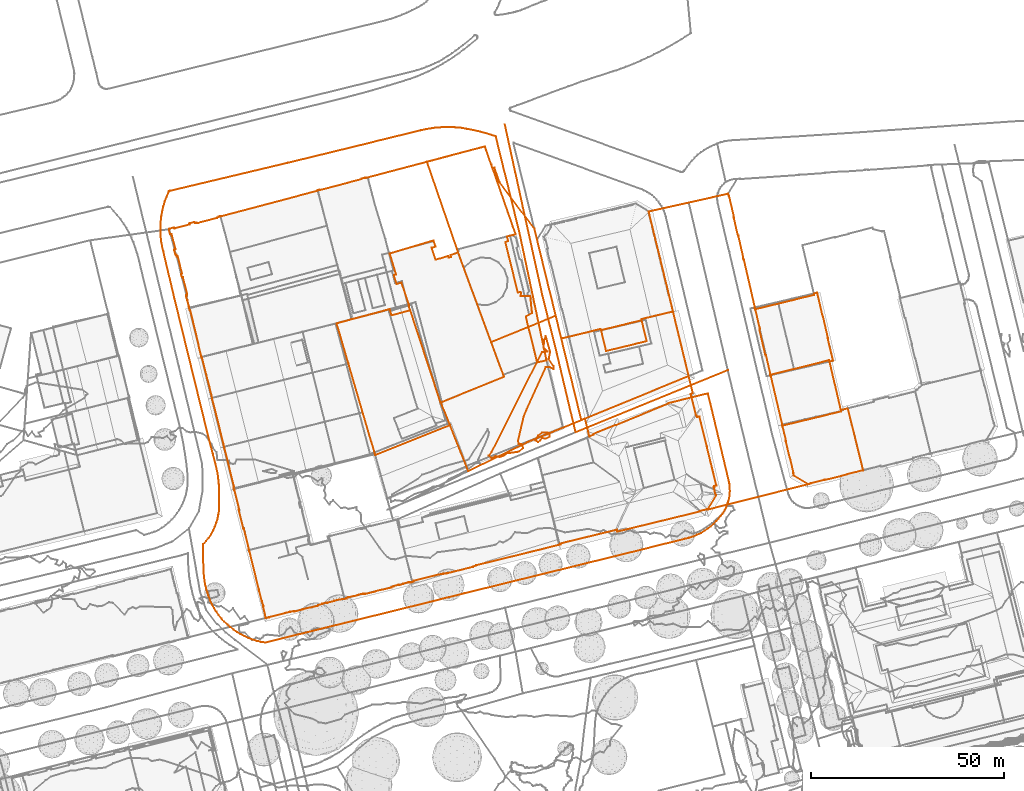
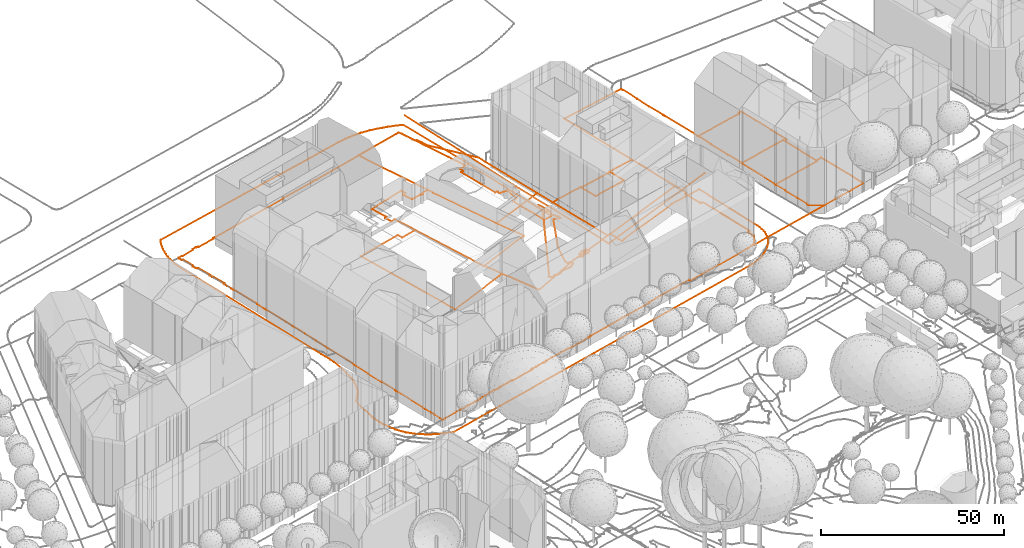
# Not in any storey, part 203 of 477: 13 geographic elements, 3 civil elements.
"""IFC4 model written with IfcOpenShell, lengths in metres."""

from ifc_helpers import new_model, entity, si_unit, frame, origin_with_axes, place, context, subcontext, project, spatial, element, save


model = new_model("IFC4")

# Units and contexts
model_context = context("Model", 3, precision=1e-05, world=origin_with_axes())
body_context = subcontext(model_context, "Body", "Model", "MODEL_VIEW")
ifc_project = project(units=[si_unit("AREAUNIT", "SQUARE_METRE"), si_unit("LENGTHUNIT", "METRE")], contexts=[model_context])

# Sites
site_1_placement = place(None, origin_with_axes())
site_1 = spatial("IfcSite", under=ifc_project, at=site_1_placement, Name="Topoexport Site")
site_2_placement = place(site_1_placement, origin_with_axes())
site_2 = spatial("IfcSite", under=site_1, at=site_2_placement, Name="TPX_ROADS")

# Civil elements
civil_element_1_placement = place(site_2_placement, frame((238.4017320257, 402.2767309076, 541.49), z_axis=(0.0, 0.0, 1.0), x_axis=(1.0, 0.0, 0.0)))
element("IfcCivilElement", 1, at=civil_element_1_placement, inside=site_2, Name="Road 5", ObjectType="ROAD", context=body_context, shape_type="GeometricCurveSet", body=[
    entity("IfcGeometricCurveSet", [entity("IfcIndexedPolyCurve", entity("IfcCartesianPointList3D", [[0.0, 0.0, 0.0], [39.4039999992, 16.1069995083, -0.087]]))]),
])
civil_element_2_placement = place(site_2_placement, frame((220.0437320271, 482.1497284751, 542.232), z_axis=(0.0, 0.0, 1.0), x_axis=(1.0, 0.0, 0.0)))
element("IfcCivilElement", 2, at=civil_element_2_placement, inside=site_2, Name="Road 24", ObjectType="ROAD", context=body_context, shape_type="GeometricCurveSet", body=[
    entity("IfcGeometricCurveSet", [entity("IfcIndexedPolyCurve", entity("IfcCartesianPointList3D", [[0.0, 0.0, 0.0], [4.6949999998, -21.4849993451, -0.089], [9.728999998, -44.2079986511, -0.437], [13.467999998, -59.3079981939, -0.565], [18.3579999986, -79.8729975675, -0.742]]))]),
])

# Site
site_3_placement = place(site_1_placement, origin_with_axes())
site_3 = spatial("IfcSite", under=site_1, at=site_3_placement, Name="TPX_ROADS_OUTLINES")

# Civil element
civil_element_3_placement = place(site_3_placement, frame((130.9287320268, 455.5297160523, 541.5830187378), z_axis=(0.0, 0.0, 1.0), x_axis=(1.0, 0.0, 0.0)))
element("IfcCivilElement", 3, at=civil_element_3_placement, inside=site_3, Name="Roads Outline 12", ObjectType="ROAD", context=body_context, shape_type="GeometricCurveSet", body=[
    entity("IfcGeometricCurveSet", [entity("IfcIndexedPolyCurve", entity("IfcCartesianPointList3D", [[0.7709999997, -6.4779999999, -0.0016682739], [0.466, -5.2049999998, 0.0031159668], [0.236, -3.916, 0.0061794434], [0.0809999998, -2.6159999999, 0.0021209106], [0.0019999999, -1.3089999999, 5.23682e-05], [0.0, 0.0, 0.0], [0.0729999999, 1.3080000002, 0.001911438], [0.2220000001, 2.608, 0.0058128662], [0.4469999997, 3.898, 0.0034140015], [0.747, 5.1730000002, -0.0012918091], [1.1200000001, 6.4280000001, -0.0071427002], [1.5660000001, 7.659, 0.0086921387], [2.0819999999, 8.8620000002, 0.0377612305], [2.1519999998, 9.007, 0.0417047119], [2.264, 9.1230000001, 0.0471509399], [2.406, 9.1980000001, 0.0469776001], [2.5649999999, 9.226, 0.0467835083], [33.0219999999, 16.497, 0.2701014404], [67.5189999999, 24.9130000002, 0.2454834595], [68.7149999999, 25.175, 0.2479653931], [69.9199999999, 25.3870000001, 0.250506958], [71.1340000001, 25.5480000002, 0.2530463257], [72.3530000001, 25.6580000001, 0.2555823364], [73.6889999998, 25.719, 0.2584094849], [75.0269999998, 25.719, 0.2611860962], [76.3629999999, 25.6570000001, 0.2640195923], [77.6949999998, 25.5330000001, 0.2667837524], [79.4049999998, 25.2540000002, 0.2703418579], [81.1039999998, 24.915, 0.263743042], [82.79, 24.517, 0.2559685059], [84.1489999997, 24.1500000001, 0.2551099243], [85.497, 23.7440000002, 0.2544456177], [86.8330000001, 23.3, 0.2387869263], [92.9729999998, -1.723, 0.2454085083], [99.9709999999, -34.655, 0.4476865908], [97.5469999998, -35.2019999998, 0.4608101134], [95.2609999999, -25.9889999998, 0.3011609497], [94.5929999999, -23.2989999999, 0.2832200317], [96.1859999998, -22.3969999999, 0.2983380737], [96.1459999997, -21.997, 0.298460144], [95.7450000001, -18.034, 0.2996838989], [93.2549999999, -18.0009999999, 0.2472197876], [93.3319999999, -17.2339999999, 0.2492782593], [93.2629999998, -16.953, 0.2474336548], [92.5249999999, -17.1339999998, 0.2427288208], [89.2999999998, -3.9939999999, 0.224338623], [90.0379999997, -3.8129999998, 0.22852771], [89.7379999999, -2.5889999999, 0.2268248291], [91.284, -2.1869999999, 0.2356003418], [91.9750000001, -2.0229999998, 0.239522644], [91.2179999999, 0.1160000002, 0.235225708], [89.906, 3.845, 0.2277784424], [85.9839999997, 15.0460000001, 0.2542078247], [85.665, 15.9550000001, 0.2543635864], [84.3369999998, 19.78, 0.2550120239], [84.0099999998, 20.723, 0.2551862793], [83.0260000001, 20.463, 0.25578125], [71.1809999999, 17.3250000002, 0.2531438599], [69.338, 16.8370000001, 0.2492636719], [68.986, 16.7440000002, 0.248527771], [53.398, 12.6140000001, 0.2158744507], [53.0449999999, 12.52, 0.2151419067], [53.0090000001, 12.6460000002, 0.2150671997], [52.068, 12.4040000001, 0.2131033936], [52.1030000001, 12.2710000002, 0.2131781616], [41.2059999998, 9.3830000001, 0.3085638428], [41.1719999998, 9.513, 0.3084040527], [40.6949999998, 9.3860000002, 0.3061622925], [40.7289999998, 9.257, 0.3063220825], [15.5919999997, 2.5960000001, 0.1881855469], [15.5649999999, 2.7410000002, 0.1880586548], [15.0379999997, 2.598, 0.1855819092], [15.0779999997, 2.452, 0.1857698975], [14.693, 2.3500000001, 0.1839605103], [14.7239999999, 2.2270000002, 0.1841062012], [9.4309999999, 0.834, 0.2971021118], [9.3999999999, 0.953, 0.2971967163], [9.0179999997, 0.8520000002, 0.2972486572], [8.9899999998, 0.9980000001, 0.2971990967], [8.7849999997, 0.9510000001, 0.2968362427], [8.7399999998, 1.1400000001, 0.2967565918], [7.5859999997, 0.8330000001, 0.2673182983], [7.6229999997, 0.686, 0.2689126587], [7.4739999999, 0.6470000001, 0.2624921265], [7.5060000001, 0.527, 0.2638710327], [3.6850000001, -0.4859999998, 0.0539053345], [3.6529999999, -0.3659999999, 0.0533213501], [3.5460000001, -0.395, 0.0513686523], [3.5079999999, -0.25, 0.0506751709], [2.3670000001, -0.5519999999, 0.0470252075], [2.3799999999, -0.5999999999, 0.0470093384], [2.327, -0.6459999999, 0.0470740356], [2.2849999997, -0.7019999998, 0.0471253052], [2.2560000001, -0.7659999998, 0.0471607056], [2.2420000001, -0.8339999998, 0.0467749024], [2.1839999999, -0.8489999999, 0.0435074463], [2.4929999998, -2.0089999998, 0.0468713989], [2.5989999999, -1.9809999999, 0.0467420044], [2.6319999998, -2.1069999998, 0.0467017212], [2.9029999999, -2.034, 0.0463709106], [3.9219999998, -5.851, 0.0582304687], [3.6809999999, -5.9149999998, 0.0538323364], [3.7139999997, -6.041, 0.0544345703], [3.5979999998, -6.0719999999, 0.0523176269], [3.8759999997, -7.2279999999, 0.0573909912], [3.9709999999, -7.2019999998, 0.0591246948], [4.0189999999, -7.395, 0.0600006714], [4.1329999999, -7.378, 0.0620811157], [4.2220000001, -7.7359999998, 0.0637053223], [4.4939999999, -7.669, 0.0713458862], [5.6289999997, -12.2409999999, 0.1390869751], [5.3569999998, -12.3089999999, 0.1063652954], [5.5669999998, -13.1429999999, 0.1316283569], [5.8359999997, -13.0759999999, 0.1639891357], [6.9699999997, -17.6369999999, 0.2418812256], [6.6979999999, -17.7049999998, 0.231239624], [6.7889999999, -18.071, 0.2347998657], [6.6710000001, -18.0999999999, 0.2301832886], [6.9169999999, -19.0799999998, 0.2398076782], [6.9729999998, -19.0659999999, 0.2419985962], [7.378, -20.7019999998, 0.2583554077], [7.321, -20.716, 0.255899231], [7.4369999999, -21.186, 0.2608977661], [7.5609999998, -21.686, 0.2662410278], [7.7450000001, -21.6399999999, 0.2741697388], [9.8909999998, -30.527, 0.211005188], [9.8199999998, -30.5449999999, 0.2126548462], [10.0549999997, -31.493, 0.1709725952], [10.4410000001, -33.051, 0.1026965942], [10.5269999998, -33.3959999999, 0.0883696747], [10.6129999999, -33.7439999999, 0.0743959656], [10.6719999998, -33.983, 0.0655645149], [10.702, -34.1039999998, 0.0614769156], [10.798, -34.078, 0.0601971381], [12.7059999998, -41.5689999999, -0.1394587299], [13.2719999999, -43.936, -0.1920396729], [13.378, -44.3839999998, -0.201873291], [13.4389999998, -44.6409999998, -0.2075132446], [14.463, -48.7189999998, -0.2965995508], [15.5079999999, -52.95, -0.4069377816], [16.3309999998, -56.3569999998, -0.5380378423], [16.4939999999, -57.017, -0.5578206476], [16.5469999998, -57.1919999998, -0.5603717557], [16.6089999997, -57.4439999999, -0.5643173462], [19.0460000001, -67.2719999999, -0.742845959], [18.9359999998, -67.2999999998, -0.7447531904], [18.8859999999, -67.3119999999, -0.7455786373], [18.997, -67.7579999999, -0.7619240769], [19.1009999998, -68.176, -0.7759363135], [19.1499999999, -68.1639999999, -0.7752164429], [20.4279999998, -73.308, -0.9431282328], [20.273, -73.3459999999, -0.9465376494], [21.4639999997, -78.2049999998, -0.9994837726], [21.6200000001, -78.1669999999, -0.995424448], [22.8840000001, -83.3159999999, -1.0792562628], [22.807, -83.335, -1.0811410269], [22.9129999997, -83.7719999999, -1.0977898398], [23.0109999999, -84.1769999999, -1.1004130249], [23.091, -84.162, -1.0981818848], [25.4869999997, -93.926, -1.331620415], [25.4249999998, -93.9409999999, -1.3337147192], [25.6409999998, -94.8149999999, -1.3533472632], [25.7009999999, -94.7999999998, -1.3521489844], [26.2309999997, -96.9579999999, -1.386026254], [26.3139999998, -96.933, -1.3836411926], [26.656, -98.28, -1.4242941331], [26.5630000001, -98.3119999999, -1.4284755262], [27.1000000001, -100.5009999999, -1.48793811], [27.051, -100.5129999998, -1.4889219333], [27.2649999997, -101.3869999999, -1.5145168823], [28.1289999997, -101.173, -1.488968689], [28.1170000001, -101.1239999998, -1.4886516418], [32.2689999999, -100.0939999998, -1.4231582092], [32.253, -100.034, -1.4208317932], [33.6059999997, -99.7009999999, -1.436501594], [33.625, -99.7579999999, -1.4428966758], [34.5430000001, -99.531, -1.3992990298], [34.5830000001, -99.6899999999, -1.413417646], [36.7949999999, -99.1499999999, -1.3741616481], [36.8149999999, -99.085, -1.3684233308], [38.605, -98.6409999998, -1.3644824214], [38.6570000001, -98.689, -1.3662265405], [40.8739999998, -98.1379999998, -1.3724496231], [40.8359999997, -97.9849999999, -1.3700312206], [41.8199999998, -97.7409999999, -1.363694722], [41.7960000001, -97.6569999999, -1.3601107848], [43.0529999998, -97.3489999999, -1.3552948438], [43.0789999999, -97.429, -1.3585004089], [45.0099999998, -96.949, -1.3366698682], [44.9909999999, -96.875, -1.3337336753], [46.3500000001, -96.5329999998, -1.3386231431], [46.3739999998, -96.6109999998, -1.3381323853], [47.2459999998, -96.395, -1.3156777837], [47.2769999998, -96.5049999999, -1.3168626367], [47.7009999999, -96.3959999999, -1.3114811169], [48.1299999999, -96.2849999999, -1.3031078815], [48.0979999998, -96.1839999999, -1.2995600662], [48.625, -96.0529999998, -1.2908041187], [48.6119999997, -95.993, -1.2887394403], [49.966, -95.645, -1.2742629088], [49.9849999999, -95.7169999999, -1.2743252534], [51.1159999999, -95.4349999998, -1.2754904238], [51.0979999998, -95.3689999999, -1.2761290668], [52.4189999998, -95.0379999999, -1.2848121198], [52.4359999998, -95.108, -1.2836145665], [52.9819999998, -94.973, -1.2855456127], [53.0209999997, -95.129, -1.2814615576], [55.514, -94.5109999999, -1.2506145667], [55.5320000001, -94.45, -1.2468884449], [57.3470000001, -94.0009999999, -1.2008506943], [57.3870000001, -94.0379999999, -1.2020494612], [59.8899999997, -93.4169999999, -1.1735940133], [59.8589999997, -93.2899999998, -1.1716028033], [60.3640000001, -93.1649999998, -1.174115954], [60.3369999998, -93.058, -1.173252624], [61.7050000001, -92.7189999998, -1.1672548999], [61.7319999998, -92.8259999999, -1.1685916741], [62.8279999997, -92.5549999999, -1.1644988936], [62.8019999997, -92.4479999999, -1.1664407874], [64.1809999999, -92.1059999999, -1.164206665], [64.2080000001, -92.213, -1.1627312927], [64.602, -92.115, -1.1609901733], [64.588, -92.058, -1.1612662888], [64.6999999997, -92.03, -1.1603423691], [64.7239999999, -92.128, -1.160126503], [64.8670000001, -92.0919999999, -1.1590384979], [65.2089999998, -92.007, -1.1554928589], [65.483, -91.9399999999, -1.1496449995], [65.5919999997, -91.9129999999, -1.1469981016], [65.5389999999, -91.699, -1.1348893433], [73.165, -89.8189999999, -1.0370227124], [73.182, -89.916, -1.0392012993], [74.0249999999, -89.7149999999, -1.0438544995], [74.0439999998, -89.808, -1.0511992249], [75.1299999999, -89.5389999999, -1.0519818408], [79.8089999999, -88.3799999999, -1.0105452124], [80.9359999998, -88.102, -0.9658019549], [80.912, -87.997, -0.9639718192], [81.7519999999, -87.807, -0.9351552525], [81.73, -87.699, -0.9288724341], [102.9809999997, -82.4639999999, -0.7768208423], [103.3709999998, -82.368, -0.7662581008], [103.5499999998, -82.324, -0.7607394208], [103.4929999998, -82.075, -0.7572149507], [103.6549999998, -82.0349999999, -0.7520969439], [118.1469999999, -78.4739999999, -0.5570623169], [118.2719999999, -79.0009999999, -0.5831803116], [139.5490000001, -73.7959999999, -0.4061179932], [139.5239999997, -73.6599999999, -0.4045424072], [141.4449999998, -73.1909999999, -0.3877448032], [141.6159999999, -73.2859999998, -0.3920697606], [143.8799999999, -69.5559999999, -0.3132097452], [143.7199999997, -69.46, -0.3097341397], [143.2379999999, -67.5189999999, -0.298088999], [143.3849999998, -67.49, -0.295765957], [143.307, -67.1509999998, -0.2954210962], [143.9029999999, -67.007, -0.2885643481], [142.6869999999, -62.0669999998, -0.2074629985], [141.4410000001, -57.0079999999, -0.1586764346], [139.5069999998, -49.155, -0.086323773], [138.9029999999, -49.298, -0.0794823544], [138.821, -48.96, -0.0751704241], [138.6779999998, -49.0059999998, -0.0744133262], [137.503, -44.2389999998, -0.0626241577], [141.7280000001, -43.1969999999, -0.1363171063], [142.7149999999, -47.3289999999, -0.170361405], [147.1089999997, -65.777, -0.4836009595], [147.2829999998, -66.666, -0.5041785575], [147.3799999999, -67.5669999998, -0.5080741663], [147.3999999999, -68.4719999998, -0.5114457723], [147.3429999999, -69.3759999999, -0.5064342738], [147.2080000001, -70.2719999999, -0.5068129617], [146.9979999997, -71.1529999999, -0.5405207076], [146.8640000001, -71.5889999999, -0.5692886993], [146.7109999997, -72.0179999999, -0.5905825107], [146.3729999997, -72.8059999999, -0.6105654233], [145.9729999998, -73.5649999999, -0.6028210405], [145.5120000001, -74.2879999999, -0.6009034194], [144.9939999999, -74.9719999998, -0.6056107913], [144.423, -75.612, -0.630232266], [143.7939999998, -76.321, -0.6165810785], [143.1229999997, -76.99, -0.5899550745], [142.3969999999, -77.6299999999, -0.6657215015], [141.6329999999, -78.2239999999, -0.6588163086], [140.8339999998, -78.7689999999, -0.6712850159], [139.8999999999, -79.3189999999, -0.6411517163], [138.9299999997, -79.8029999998, -0.608780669], [137.929, -80.2189999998, -0.6485741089], [136.9010000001, -80.564, -0.6373681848], [135.852, -80.8369999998, -0.6456495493], [78.7829999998, -94.9409999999, -1.2108051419], [27.142, -107.7109999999, -1.7187210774], [26.0329999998, -107.5209999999, -1.6822523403], [24.9380000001, -107.2619999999, -1.6405156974], [23.8619999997, -106.9369999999, -1.6018101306], [22.807, -106.5449999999, -1.5930884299], [21.7790000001, -106.0889999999, -1.6002822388], [20.7799999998, -105.5699999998, -1.6073730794], [19.8160000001, -104.9909999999, -1.6048544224], [18.889, -104.3529999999, -1.6239455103], [18.0039999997, -103.659, -1.663052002], [17.662, -103.365, -1.6610619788], [17.3259999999, -103.0629999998, -1.6537648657], [16.5439999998, -102.298, -1.6570506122], [15.8089999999, -101.4889999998, -1.6551782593], [15.1229999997, -100.6369999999, -1.6494250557], [14.4899999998, -99.7449999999, -1.6387179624], [13.9099999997, -98.818, -1.6338334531], [13.3859999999, -97.858, -1.5965869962], [12.9210000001, -96.868, -1.5721259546], [12.5149999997, -95.852, -1.5765952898], [12.1699999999, -94.8149999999, -1.5930476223], [11.8879999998, -93.7579999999, -1.5739469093], [11.6119999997, -92.6599999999, -1.5225939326], [11.4040000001, -91.548, -1.4731436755], [11.2649999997, -90.4249999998, -1.434394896], [11.196, -89.2949999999, -1.3919101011], [11.1030000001, -86.95, -1.3564287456], [11.0579999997, -84.6029999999, -1.2811331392], [11.0609999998, -82.2559999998, -1.2405012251], [11.7879999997, -81.456, -1.2048638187], [12.4529999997, -80.605, -1.1561732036], [13.0549999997, -79.7079999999, -1.1261306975], [13.588, -78.7679999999, -1.1069992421], [14.051, -77.7919999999, -1.0725868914], [14.4410000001, -76.784, -1.0148473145], [14.7549999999, -75.7509999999, -0.976852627], [14.9929999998, -74.6969999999, -0.9839723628], [15.1519999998, -73.628, -0.959857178], [15.2319999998, -72.5499999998, -0.942283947], [15.233, -71.47, -0.9285743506], [15.2489999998, -69.9299999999, -0.8995053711], [15.2149999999, -68.3909999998, -0.8386193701], [15.1289999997, -66.8539999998, -0.8004206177], [14.9909999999, -65.3199999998, -0.7888749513], [14.8029999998, -63.7919999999, -0.7671627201], [14.4369999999, -62.1739999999, -0.7085374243], [14.0359999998, -60.5649999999, -0.6446220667], [13.5979999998, -58.9649999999, -0.6455407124], [12.6059999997, -55.1139999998, -0.5626603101], [3.594, -18.4379999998, 0.0522446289], [0.7709999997, -6.4779999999, -0.0016682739]]))]),
])

# Site
site_4_placement = place(site_1_placement, origin_with_axes())
site_4 = spatial("IfcSite", under=site_1, at=site_4_placement, Name="TPX_CADASTRES")

# Geographic elements
geographic_element_1_placement = place(site_4_placement, frame((245.0027320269, 428.7027160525, 541.7933792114), z_axis=(0.0, 0.0, 1.0), x_axis=(1.0, 0.0, 0.0)))
element("IfcGeographicElement", 4, at=geographic_element_1_placement, inside=site_4, Name="Cadastre 1", PredefinedType="NOTDEFINED", context=body_context, shape_type="GeometricCurveSet", body=[
    entity("IfcGeometricCurveSet", [entity("IfcIndexedPolyCurve", entity("IfcCartesianPointList3D", [[0.0, 0.0, 0.0], [10.4899999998, 2.5399999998, -0.0229391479], [11.7999999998, -2.861, -0.0354659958], [1.3109999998, -5.4100000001, -0.0571172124], [0.0, 0.0, 0.0]]))]),
])
geographic_element_2_placement = place(site_4_placement, frame((190.3127320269, 448.5127160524, 541.8114373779), z_axis=(0.0, 0.0, 1.0), x_axis=(1.0, 0.0, 0.0)))
element("IfcGeographicElement", 5, at=geographic_element_2_placement, inside=site_4, Name="Cadastre 2", PredefinedType="NOTDEFINED", context=body_context, shape_type="GeometricCurveSet", body=[
    entity("IfcGeometricCurveSet", [entity("IfcIndexedPolyCurve", entity("IfcCartesianPointList3D", [[0.0, 0.0, 0.0], [11.2769999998, 3.4130000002, 0.0236461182], [11.824, 1.8120000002, 0.02478125], [10.8089999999, 1.4990000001, 0.0226715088], [11.8529999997, -1.5899999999, 0.0248414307], [12.8729999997, -1.2439999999, 0.0269586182], [12.9039999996, -1.338, 0.0270248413], [15.0699999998, -0.6159999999, 0.0315783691], [15.2259999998, -1.0699999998, 0.0319020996], [15.8629999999, -0.8439999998, 0.033223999], [15.7049999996, -0.3899999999, 0.0328961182], [17.7219999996, 0.3080000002, 0.0371428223], [18.449, -1.7889999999, 0.0386514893], [26.2399999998, -22.9079999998, -0.0418535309], [29.5519999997, -31.8839999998, 0.0909111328], [13.2349999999, -38.5259999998, -0.2419332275], [13.1349999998, -38.5669999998, -0.2439691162], [5.2759999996, -14.6679999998, 0.0110708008], [4.8429999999, -13.352, 0.0101708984], [4.9929999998, -13.301, 0.0104835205], [3.0149999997, -7.4989999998, 0.006317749], [1.7719999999, -7.8769999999, 0.003732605], [1.0409999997, -5.5699999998, 0.0021710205], [1.6399999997, -5.3809999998, 0.0034506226], [0.0, 0.0, 0.0]]))]),
])
geographic_element_3_placement = place(site_4_placement, frame((199.9147320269, 472.2737160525, 541.8315465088), z_axis=(0.0, 0.0, 1.0), x_axis=(1.0, 0.0, 0.0)))
element("IfcGeographicElement", 6, at=geographic_element_3_placement, inside=site_4, Name="Cadastre 3", PredefinedType="NOTDEFINED", context=body_context, shape_type="GeometricCurveSet", body=[
    entity("IfcGeometricCurveSet", [entity("IfcIndexedPolyCurve", entity("IfcCartesianPointList3D", [[0.0, 0.0, 0.0], [15.0239999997, 3.98, 0.0066585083], [16.9979999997, -1.6980000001, 0.0056800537], [17.4720000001, -1.534, 7.8186e-05], [18.7859999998, -5.2650000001, -0.0256131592], [27.8229999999, -17.3160000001, 0.0338612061], [28.5159999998, -20.1410000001, 0.0455238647], [33.3489999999, -39.8430000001, -0.0473608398], [26.2749999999, -42.733, 0.0526331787], [16.6379999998, -46.669, -0.0619626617], [8.8470000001, -25.55, 0.0185423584], [8.1199999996, -23.453, 0.0170336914], [0.0, 0.0, 0.0]]))]),
])
geographic_element_4_placement = place(site_4_placement, frame((203.5477320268, 409.9867160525, 541.5695041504), z_axis=(0.0, 0.0, 1.0), x_axis=(1.0, 0.0, 0.0)))
element("IfcGeographicElement", 7, at=geographic_element_4_placement, inside=site_4, Name="Cadastre 8", PredefinedType="NOTDEFINED", context=body_context, shape_type="GeometricCurveSet", body=[
    entity("IfcGeometricCurveSet", [entity("IfcIndexedPolyCurve", entity("IfcCartesianPointList3D", [[0.0, 0.0, 0.0], [16.3169999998, 6.642, 0.3328443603], [13.0049999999, 15.618, 0.2000796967], [22.642, 19.554, 0.3146755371], [29.716, 22.4439999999, 0.2146815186], [31.1669999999, 16.5329999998, 0.2191250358], [36.3419999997, -4.5650000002, 0.1227926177], [22.483, -10.2440000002, 0.399905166], [7.0759999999, -17.784, 0.3582530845], [2.3390000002, -5.8800000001, 0.1661663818], [0.0, 0.0, 0.0]]))]),
])
geographic_element_5_placement = place(site_4_placement, frame((176.5447320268, 430.4507160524, 541.8249715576), z_axis=(0.0, 0.0, 1.0), x_axis=(1.0, 0.0, 0.0)))
element("IfcGeographicElement", 8, at=geographic_element_5_placement, inside=site_4, Name="Cadastre 10", PredefinedType="NOTDEFINED", context=body_context, shape_type="GeometricCurveSet", body=[
    entity("IfcGeometricCurveSet", [entity("IfcIndexedPolyCurve", entity("IfcCartesianPointList3D", [[0.0, 0.0, 0.0], [3.8989999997, 1.044, -0.013704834], [13.7489999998, 3.6810000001, -0.0135736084], [14.2259999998, 2.0819999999, -0.0125837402], [18.8289999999, 3.3359999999, -0.0029095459], [19.0439999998, 3.3940000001, -0.0024633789], [26.9029999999, -20.5049999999, -0.2575032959], [27.003, -20.4639999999, -0.2554674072], [29.3420000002, -26.344, -0.0893010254], [9.9929999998, -34.101, -0.4767073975], [9.8620000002, -33.635, -0.4970812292], [6.7579999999, -23.05, -0.3129918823], [3.0520000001, -10.412, -0.1212744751], [0.0, 0.0, 0.0]]))]),
])
geographic_element_6_placement = place(site_4_placement, frame((234.7147320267, 426.5197160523, 541.7886291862), z_axis=(0.0, 0.0, 1.0), x_axis=(1.0, 0.0, 0.0)))
element("IfcGeographicElement", 9, at=geographic_element_6_placement, inside=site_4, Name="Cadastre 11", PredefinedType="NOTDEFINED", context=body_context, shape_type="GeometricCurveSet", body=[
    entity("IfcGeometricCurveSet", [entity("IfcIndexedPolyCurve", entity("IfcCartesianPointList3D", [[0.0, 0.0, 0.0], [1.949, 0.4740000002, 0.1056303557], [10.2080000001, 2.483, 0.0064443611], [10.2880000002, 2.1830000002, 0.0047500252], [11.5989999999, -3.227, -0.0523671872], [22.088, -0.6779999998, -0.0307159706], [20.7779999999, 4.723, -0.0181891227], [20.7080000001, 5.023, -0.0182147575], [28.9029999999, 7.0010000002, -0.0804431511], [32.9619999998, -9.71, -0.200311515], [6.128, -20.706, -0.1063170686], [5.1749999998, -21.098, -0.0963324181], [0.0, 0.0, 0.0]]))]),
])
geographic_element_7_placement = place(site_4_placement, frame((240.8427320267, 405.8137160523, 541.6823121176), z_axis=(0.0, 0.0, 1.0), x_axis=(1.0, 0.0, 0.0)))
element("IfcGeographicElement", 10, at=geographic_element_7_placement, inside=site_4, Name="Cadastre 12", PredefinedType="NOTDEFINED", context=body_context, shape_type="GeometricCurveSet", body=[
    entity("IfcGeometricCurveSet", [entity("IfcIndexedPolyCurve", entity("IfcCartesianPointList3D", [[0.0, 0.0, 0.0], [26.8339999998, 10.996, -0.0939944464], [27.8999999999, 6.608, -0.1410407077], [27.3629999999, 6.392, -0.1554535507], [27.5890000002, 5.4770000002, -0.1619175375], [21.6159999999, 4.0040000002, -0.0799478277], [21.6379999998, 3.9130000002, -0.0792921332], [7.8960000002, -1.7359999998, 0.0971708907], [7.8530000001, -1.6449999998, 0.099499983], [2.1549999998, -3.98, 0.0234796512], [2.1940000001, -4.1779999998, 0.0179905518], [1.1329999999, -4.6209999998, 0.0032086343], [0.0, 0.0, 0.0]]))]),
])
geographic_element_8_placement = place(site_4_placement, frame((284.8507320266, 434.0917160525, 541.6880639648), z_axis=(0.0, 0.0, 1.0), x_axis=(1.0, 0.0, 0.0)))
element("IfcGeographicElement", 11, at=geographic_element_8_placement, inside=site_4, Name="Cadastre 42", PredefinedType="NOTDEFINED", context=body_context, shape_type="GeometricCurveSet", body=[
    entity("IfcGeometricCurveSet", [entity("IfcIndexedPolyCurve", entity("IfcCartesianPointList3D", [[0.0, 0.0, 0.0], [15.3130000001, 3.7249999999, -0.0123292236], [15.23, 4.075, -0.012243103], [16.0950000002, 4.2819999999, -0.012578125], [17.4539999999, -1.6160000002, -0.0092105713], [17.5360000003, -1.591, -0.0090003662], [18.8790000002, -7.3959999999, -0.029096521], [18.7949999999, -7.4200000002, -0.0280451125], [20.1839999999, -13.3060000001, -0.0838715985], [19.2919999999, -13.5290000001, -0.0493271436], [19.21, -13.1780000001, -0.0434434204], [3.9369999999, -16.977, -0.0859885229], [3.8760000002, -16.6530000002, -0.0832617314], [3.946, -16.629, -0.082864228], [2.8459999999, -11.8900000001, -0.0432607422], [2.7000000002, -11.9240000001, -0.0432695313], [1.1129999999, -5.081, -0.0075281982], [1.2590000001, -5.047, -0.0084816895], [0.1660000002, -0.338, -0.0012158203], [0.0970000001, -0.345, -0.0007104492], [0.0, 0.0, 0.0]]))]),
])
geographic_element_9_placement = place(site_4_placement, frame((257.3317320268, 459.3967160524, 541.7710524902), z_axis=(0.0, 0.0, 1.0), x_axis=(1.0, 0.0, 0.0)))
element("IfcGeographicElement", 12, at=geographic_element_9_placement, inside=site_4, Name="Cadastre 43", PredefinedType="NOTDEFINED", context=body_context, shape_type="GeometricCurveSet", body=[
    entity("IfcGeometricCurveSet", [entity("IfcIndexedPolyCurve", entity("IfcCartesianPointList3D", [[0.0, 0.0, 0.0], [20.574, 4.608, -0.0540959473], [20.7369999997, 3.9310000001, -0.0531309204], [20.818, 3.949, -0.0526513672], [22.1060000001, -1.5630000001, -0.132217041], [22.0239999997, -1.5930000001, -0.121796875], [23.108, -6.2749999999, -0.2264605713], [23.193, -6.2609999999, -0.2265280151], [24.4670000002, -11.7509999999, -0.1960037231], [24.3840000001, -11.7779999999, -0.20015271], [24.4649999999, -12.1329999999, -0.1961036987], [24.5460000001, -12.4879999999, -0.1920546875], [24.6359999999, -12.46, -0.1875557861], [27.5279999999, -24.9469999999, -0.0830544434], [27.4550000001, -24.959, -0.0825197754], [27.5189999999, -25.3049999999, -0.0829885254], [27.6159999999, -25.6499999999, -0.0836989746], [27.6850000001, -25.6429999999, -0.0842043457], [28.7779999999, -30.352, -0.0914702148], [28.6319999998, -30.3859999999, -0.0905167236], [30.219, -37.2290000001, -0.1262580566], [30.3649999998, -37.1950000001, -0.1262492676], [31.4649999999, -41.9339999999, -0.1658527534], [31.395, -41.9580000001, -0.1662502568], [31.4559999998, -42.2819999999, -0.1689770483], [31.5490000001, -42.635, -0.172382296], [31.6189999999, -42.621, -0.1724362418], [34.5409999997, -55.03, -0.3137015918], [34.4550000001, -55.0819999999, -0.3143500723], [34.5409999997, -55.45, -0.3207952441], [34.628, -55.8189999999, -0.3254329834], [34.7000000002, -55.797, -0.3245797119], [35.5699999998, -59.4180000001, -0.3468546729], [35.477, -59.452, -0.3480169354], [36.551, -63.977, -0.3526989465], [36.6329999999, -63.9580000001, -0.3510016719], [37.4759999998, -67.6370000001, -0.3979852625], [37.3939999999, -67.665, -0.400008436], [37.5520000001, -68.3589999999, -0.4019833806], [41.2000000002, -70.5970000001, -0.3660131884], [15.213, -77.1529999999, -0.580103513], [17.477, -73.423, -0.5012434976], [17.3169999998, -73.327, -0.4977678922], [16.835, -71.3859999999, -0.4861227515], [16.9819999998, -71.3570000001, -0.4837997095], [16.9040000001, -71.0179999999, -0.4834548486], [17.5, -70.8740000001, -0.4765981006], [13.1039999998, -53.0220000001, -0.2743575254], [12.5, -53.165, -0.2675161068], [12.4180000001, -52.827, -0.2632041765], [12.2749999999, -52.8729999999, -0.2624470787], [11.1000000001, -48.1059999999, -0.2506579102], [10.8739999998, -47.1910000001, -0.2441939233], [11.4109999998, -46.9750000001, -0.2297810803], [10.3449999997, -42.5870000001, -0.182734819], [6.2859999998, -25.8759999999, -0.0628664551], [0.0, 0.0, 0.0]]))]),
])
geographic_element_10_placement = place(site_4_placement, frame((291.8727320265, 403.9467160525, 541.4502572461), z_axis=(0.0, 0.0, 1.0), x_axis=(1.0, 0.0, 0.0)))
element("IfcGeographicElement", 13, at=geographic_element_10_placement, inside=site_4, Name="Cadastre 54", PredefinedType="NOTDEFINED", context=body_context, shape_type="GeometricCurveSet", body=[
    entity("IfcGeometricCurveSet", [entity("IfcIndexedPolyCurve", entity("IfcCartesianPointList3D", [[0.0, 0.0, 0.0], [15.2810000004, 3.7109999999, 0.1713585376], [15.199, 4.0619999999, 0.1734026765], [16.9840000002, 4.5079999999, 0.1940308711], [20.9850000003, -11.577, 0.1150997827], [20.6210000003, -11.666, 0.0894587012], [20.5830000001, -11.5870000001, 0.085973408], [16.9420000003, -12.487, 0.0159460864], [16.9620000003, -12.5660000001, 0.017635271], [10.9930000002, -14.057, -0.038749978], [10.9610000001, -13.983, -0.0363619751], [7.3260000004, -14.895, -0.0450984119], [7.3370000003, -14.983, -0.0487443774], [6.6590000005, -15.1470000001, -0.0452179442], [3.0110000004, -12.909, -0.0811881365], [2.8530000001, -12.2150000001, -0.0792131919], [2.9350000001, -12.1870000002, -0.0771900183], [2.0920000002, -8.5080000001, -0.0302064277], [2.0100000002, -8.527, -0.0319037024], [0.9360000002, -4.0020000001, -0.0272216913], [1.0290000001, -3.9680000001, -0.0260594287], [0.1590000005, -0.3470000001, -0.0037844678], [0.0870000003, -0.3689999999, -0.0046377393], [0.0, 0.0, 0.0]]))]),
])
geographic_element_11_placement = place(site_4_placement, frame((288.7877320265, 417.1147160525, 541.6020754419), z_axis=(0.0, 0.0, 1.0), x_axis=(1.0, 0.0, 0.0)))
element("IfcGeographicElement", 14, at=geographic_element_11_placement, inside=site_4, Name="Cadastre 56", PredefinedType="NOTDEFINED", context=body_context, shape_type="GeometricCurveSet", body=[
    entity("IfcGeometricCurveSet", [entity("IfcIndexedPolyCurve", entity("IfcCartesianPointList3D", [[0.0, 0.0, 0.0], [15.273, 3.7989999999, 0.0425451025], [15.355, 3.4479999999, 0.0366613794], [18.284, -9.1060000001, 0.0215844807], [18.3660000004, -9.4570000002, 0.0195403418], [3.085, -13.1680000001, -0.1518181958], [2.9990000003, -12.8, -0.1453730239], [3.085, -12.7480000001, -0.1447245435], [0.1630000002, -0.3390000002, -0.0034591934], [0.0930000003, -0.3530000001, -0.0034052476], [0.0, 0.0, 0.0]]))]),
])

# Site
site_5_placement = place(site_1_placement, origin_with_axes())
site_5 = spatial("IfcSite", under=site_1, at=site_5_placement, Name="TPX_CONTOUR_LINES")

# Geographic elements
geographic_element_12_placement = place(site_5_placement, frame((227.9926670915, 400.1707160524, 542.0), z_axis=(0.0, 0.0, 1.0), x_axis=(1.0, 0.0, 0.0)))
element("IfcGeographicElement", 15, at=geographic_element_12_placement, inside=site_5, Name="Contour Line 542.0 m", PredefinedType="NOTDEFINED", context=body_context, shape_type="GeometricCurveSet", body=[
    entity("IfcGeometricCurveSet", [entity("IfcIndexedPolyCurve", entity("IfcCartesianPointList3D", [[1.1761432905, 0.0, 0.0], [0.6850649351, -0.4034416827, 0.0], [0.0, 0.0, 0.0], [0.6850649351, 1.252088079, 0.0], [1.6850649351, 1.9748549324, 0.0], [3.1636363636, 2.0, 0.0], [3.6850649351, 1.5705882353, 0.0], [3.6850649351, 0.9543529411, 0.0], [2.6850649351, 0.4176470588, 0.0], [1.6850649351, 0.5655172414, 0.0], [1.1761432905, 0.0, 0.0]]))]),
])
geographic_element_13_placement = place(site_5_placement, frame((215.8583548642, 396.1707160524, 542.0), z_axis=(0.0, 0.0, 1.0), x_axis=(1.0, 0.0, 0.0)))
element("IfcGeographicElement", 16, at=geographic_element_13_placement, inside=site_5, Name="Contour Line 542.0 m", PredefinedType="NOTDEFINED", context=body_context, shape_type="GeometricCurveSet", body=[
    entity("IfcGeometricCurveSet", [entity("IfcIndexedPolyCurve", entity("IfcCartesianPointList3D", [[3.9245258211, 0.0, 0.0], [2.8193771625, -0.3335676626, 0.0], [1.8193771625, -0.1135469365, 0.0], [0.8193771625, -0.6109391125, 0.0], [0.0, 0.0, 0.0], [0.789288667, 1.0, 0.0], [13.8193771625, 26.7951002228, 0.0], [15.2577657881, 27.0, 0.0], [14.2505546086, 28.0, 0.0], [14.4235537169, 30.0, 0.0], [14.8193771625, 30.9586206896, 0.0], [15.9495969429, 27.0, 0.0], [15.6094360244, 25.0, 0.0], [16.8193771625, 23.2729528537, 0.0], [16.8193771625, 22.45, 0.0], [15.8193771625, 22.9426546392, 0.0], [14.8193771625, 22.9663299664, 0.0], [9.8116907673, 12.0, 0.0], [9.0652005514, 10.0, 0.0], [7.645464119, 4.0, 0.0], [7.8193771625, 3.0280373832, 0.0], [8.8193771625, 2.9527027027, 0.0], [8.9197330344, 2.0, 0.0], [7.8193771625, 1.0598086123, 0.0], [4.8193771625, 0.645060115, 0.0], [3.9245258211, 0.0, 0.0]]))]),
])

save(model, "model.ifc")
